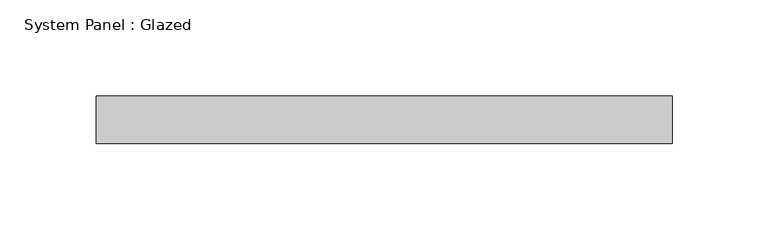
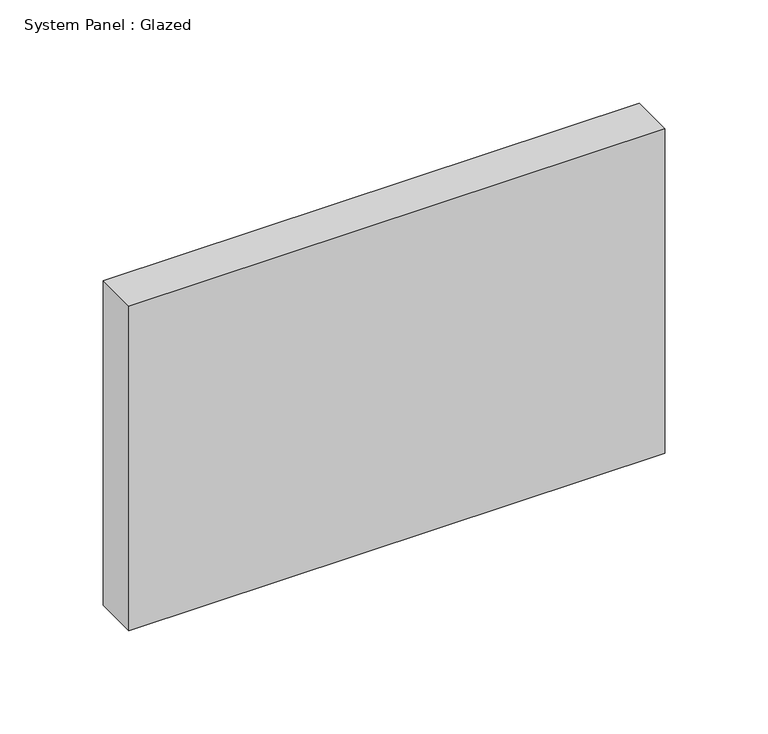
"""IFC4 building model written with IfcOpenShell, lengths in millimetres: plate geometry, System Panel : Glazed."""

from ifc_helpers import new_model, si_unit, origin, origin_with_axes, place, context, project, spatial, polyline, outline, extrude, source, transform, mapped, element, save


def system_panel_glazed_56128400(model_context):
    return source(origin(), model_context, "Body", "SweptSolid", [
        extrude(outline(polyline([(150.0, -49.5), (-150.0, -49.5), (-150.0, -24.5), (150.0, -24.5), (150.0, -49.5)])), origin_with_axes(), (0.0, 0.0, 1.0), 192.0),
    ])


if __name__ == "__main__":
    model = new_model("IFC4")
    model_context = context("Model", 3, world=origin())
    ifc_project = project(units=[si_unit("LENGTHUNIT", "METRE", prefix="MILLI")], contexts=[model_context])
    site = spatial("IfcSite", under=ifc_project)
    building = spatial("IfcBuilding", under=site)
    placement = place(None, origin())
    system_panel_glazed_shape = system_panel_glazed_56128400(model_context)
    element("IfcPlate", 1, ObjectType="System Panel : Glazed", at=placement, inside=building, context=model_context, shape_type="MappedRepresentation", body=[
        mapped(system_panel_glazed_shape, transform((0.0, 0.0, 0.0), x_axis=(1.0, 0.0, 0.0), y_axis=(0.0, 1.0, 0.0), z_axis=(0.0, 0.0, 1.0))),
    ])
    save(model, "model.ifc")
